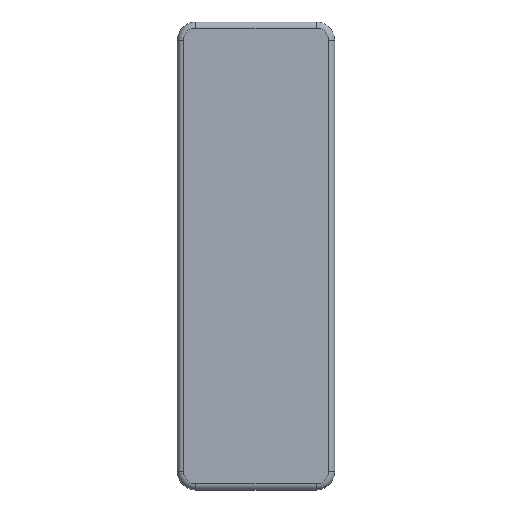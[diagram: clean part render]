
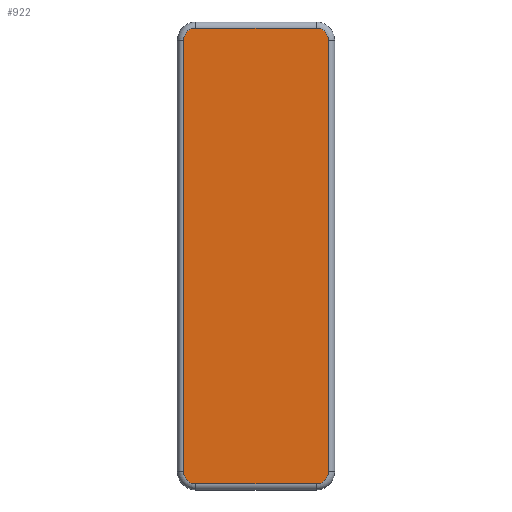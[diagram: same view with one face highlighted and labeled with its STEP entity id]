
A CAD part, top view. The second image highlights one B-rep face of the part: STEP entity #922.
In plain terms, the highlighted planar face has unit normal (0, 0, 1).
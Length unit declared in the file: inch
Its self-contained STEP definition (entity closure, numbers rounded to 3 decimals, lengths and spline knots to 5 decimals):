
#41 = VERTEX_POINT ( 'NONE', #70 ) ;
#44 = EDGE_CURVE ( 'NONE', #837, #41, #795, .T. ) ;
#55 = CIRCLE ( 'NONE', #470, 0.06 ) ;
#64 = DIRECTION ( 'NONE',  ( 0., -1., 0. ) ) ;
#70 = CARTESIAN_POINT ( 'NONE',  ( -2.47913, 1.50708, 2.4625 ) ) ;
#90 = CARTESIAN_POINT ( 'NONE',  ( -2.47913, -0.60292, 2.4625 ) ) ;
#104 = CARTESIAN_POINT ( 'NONE',  ( -2.47913, -0.60292, 2.4625 ) ) ;
#130 = VERTEX_POINT ( 'NONE', #959 ) ;
#132 = VECTOR ( 'NONE', #400, 39.37008 ) ;
#134 = CARTESIAN_POINT ( 'NONE',  ( -1.76913, -0.60292, 2.4625 ) ) ;
#138 = DIRECTION ( 'NONE',  ( 0., 0., 1. ) ) ;
#141 = DIRECTION ( 'NONE',  ( 1., 0., 0. ) ) ;
#157 = CARTESIAN_POINT ( 'NONE',  ( -1.82913, -0.60292, 2.4625 ) ) ;
#169 = DIRECTION ( 'NONE',  ( 0., 0., 1. ) ) ;
#187 = ORIENTED_EDGE ( 'NONE', *, *, #819, .T. ) ;
#241 = FACE_OUTER_BOUND ( 'NONE', #778, .T. ) ;
#243 = VECTOR ( 'NONE', #64, 39.37008 ) ;
#249 = CARTESIAN_POINT ( 'NONE',  ( -2.41913, 1.56708, 2.4625 ) ) ;
#253 = CIRCLE ( 'NONE', #469, 0.06 ) ;
#261 = EDGE_CURVE ( 'NONE', #790, #837, #725, .T. ) ;
#272 = DIRECTION ( 'NONE',  ( 0., 0., 1. ) ) ;
#276 = DIRECTION ( 'NONE',  ( 1., 0., 0. ) ) ;
#284 = CARTESIAN_POINT ( 'NONE',  ( -1.82913, 1.50708, 2.4625 ) ) ;
#304 = ORIENTED_EDGE ( 'NONE', *, *, #897, .T. ) ;
#312 = CARTESIAN_POINT ( 'NONE',  ( -2.12413, 0.45208, 2.4625 ) ) ;
#341 = DIRECTION ( 'NONE',  ( -1., 0., 0. ) ) ;
#379 = ORIENTED_EDGE ( 'NONE', *, *, #1079, .T. ) ;
#385 = VERTEX_POINT ( 'NONE', #1067 ) ;
#400 = DIRECTION ( 'NONE',  ( 0., 1., 0. ) ) ;
#405 = CARTESIAN_POINT ( 'NONE',  ( -1.76913, 1.50708, 2.4625 ) ) ;
#446 = DIRECTION ( 'NONE',  ( 1., 0., 0. ) ) ;
#465 = VERTEX_POINT ( 'NONE', #488 ) ;
#466 = LINE ( 'NONE', #405, #132 ) ;
#468 = AXIS2_PLACEMENT_3D ( 'NONE', #529, #169, #942 ) ;
#469 = AXIS2_PLACEMENT_3D ( 'NONE', #937, #944, #1075 ) ;
#470 = AXIS2_PLACEMENT_3D ( 'NONE', #157, #138, #141 ) ;
#479 = EDGE_CURVE ( 'NONE', #385, #465, #1020, .T. ) ;
#483 = CARTESIAN_POINT ( 'NONE',  ( -2.41913, 1.56708, 2.4625 ) ) ;
#488 = CARTESIAN_POINT ( 'NONE',  ( -1.82913, -0.66292, 2.4625 ) ) ;
#496 = CARTESIAN_POINT ( 'NONE',  ( -1.82913, 1.56708, 2.4625 ) ) ;
#509 = EDGE_CURVE ( 'NONE', #130, #790, #964, .T. ) ;
#518 = LINE ( 'NONE', #104, #243 ) ;
#529 = CARTESIAN_POINT ( 'NONE',  ( -2.41913, 1.50708, 2.4625 ) ) ;
#553 = EDGE_CURVE ( 'NONE', #41, #1095, #518, .T. ) ;
#575 = ORIENTED_EDGE ( 'NONE', *, *, #509, .T. ) ;
#610 = PLANE ( 'NONE',  #832 ) ;
#725 = LINE ( 'NONE', #249, #912 ) ;
#756 = ORIENTED_EDGE ( 'NONE', *, *, #261, .T. ) ;
#778 = EDGE_LOOP ( 'NONE', ( #988, #304, #859, #379, #187, #575, #756, #920 ) ) ;
#790 = VERTEX_POINT ( 'NONE', #496 ) ;
#795 = CIRCLE ( 'NONE', #468, 0.06 ) ;
#819 = EDGE_CURVE ( 'NONE', #1106, #130, #466, .T. ) ;
#823 = CARTESIAN_POINT ( 'NONE',  ( -1.82913, -0.66292, 2.4625 ) ) ;
#832 = AXIS2_PLACEMENT_3D ( 'NONE', #312, #1097, #940 ) ;
#837 = VERTEX_POINT ( 'NONE', #483 ) ;
#859 = ORIENTED_EDGE ( 'NONE', *, *, #479, .T. ) ;
#897 = EDGE_CURVE ( 'NONE', #1095, #385, #253, .T. ) ;
#912 = VECTOR ( 'NONE', #341, 39.37008 ) ;
#920 = ORIENTED_EDGE ( 'NONE', *, *, #44, .T. ) ;
#922 = ADVANCED_FACE ( 'NONE', ( #241 ), #610, .T. ) ;
#924 = VECTOR ( 'NONE', #446, 39.37008 ) ;
#937 = CARTESIAN_POINT ( 'NONE',  ( -2.41913, -0.60292, 2.4625 ) ) ;
#940 = DIRECTION ( 'NONE',  ( 1., 0., 0. ) ) ;
#942 = DIRECTION ( 'NONE',  ( 1., 0., 0. ) ) ;
#944 = DIRECTION ( 'NONE',  ( 0., 0., 1. ) ) ;
#959 = CARTESIAN_POINT ( 'NONE',  ( -1.76913, 1.50708, 2.4625 ) ) ;
#964 = CIRCLE ( 'NONE', #975, 0.06 ) ;
#975 = AXIS2_PLACEMENT_3D ( 'NONE', #284, #272, #276 ) ;
#988 = ORIENTED_EDGE ( 'NONE', *, *, #553, .T. ) ;
#1020 = LINE ( 'NONE', #823, #924 ) ;
#1067 = CARTESIAN_POINT ( 'NONE',  ( -2.41913, -0.66292, 2.4625 ) ) ;
#1075 = DIRECTION ( 'NONE',  ( 1., 0., 0. ) ) ;
#1079 = EDGE_CURVE ( 'NONE', #465, #1106, #55, .T. ) ;
#1095 = VERTEX_POINT ( 'NONE', #90 ) ;
#1097 = DIRECTION ( 'NONE',  ( 0., 0., 1. ) ) ;
#1106 = VERTEX_POINT ( 'NONE', #134 ) ;
